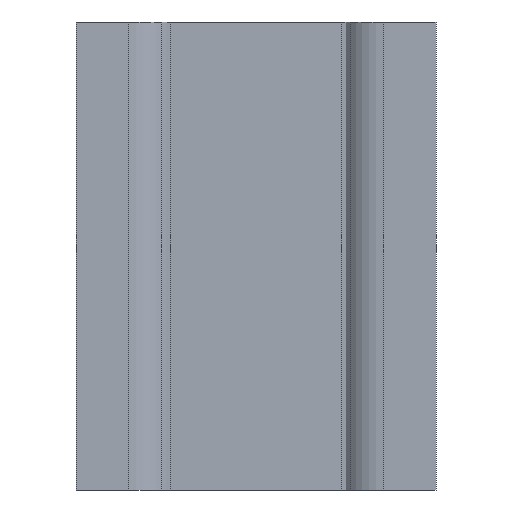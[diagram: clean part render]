
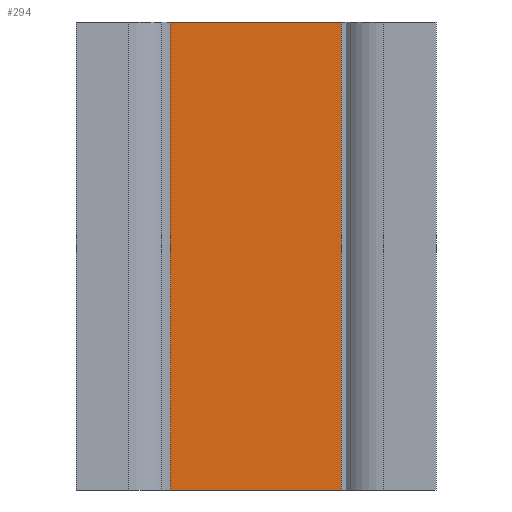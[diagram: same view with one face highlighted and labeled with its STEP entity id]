
A CAD part, front view. The second image highlights one B-rep face of the part: STEP entity #294.
In plain terms, the highlighted planar face has unit normal (0, -1, 0).
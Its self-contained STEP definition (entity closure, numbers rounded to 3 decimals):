
#1 = EDGE_CURVE ( 'NONE', #645, #343, #653, .T. ) ;
#2 = LINE ( 'NONE', #492, #76 ) ;
#3 = ORIENTED_EDGE ( 'NONE', *, *, #701, .T. ) ;
#36 = DIRECTION ( 'NONE',  ( 0., 0., 1. ) ) ;
#76 = VECTOR ( 'NONE', #681, 1000. ) ;
#84 = FACE_OUTER_BOUND ( 'NONE', #97, .T. ) ;
#97 = EDGE_LOOP ( 'NONE', ( #268, #3, #543, #812 ) ) ;
#99 = CARTESIAN_POINT ( 'NONE',  ( -2.375, 0.5, -11.425 ) ) ;
#110 = DIRECTION ( 'NONE',  ( 0., 0., 1. ) ) ;
#114 = CARTESIAN_POINT ( 'NONE',  ( -2.375, 0.5, -6.5 ) ) ;
#115 = VECTOR ( 'NONE', #36, 1000. ) ;
#124 = CARTESIAN_POINT ( 'NONE',  ( 2.375, 0.5, 6.5 ) ) ;
#156 = DIRECTION ( 'NONE',  ( 0., -1., 0. ) ) ;
#191 = CARTESIAN_POINT ( 'NONE',  ( 2.375, 0.5, -6.5 ) ) ;
#197 = EDGE_CURVE ( 'NONE', #343, #577, #494, .T. ) ;
#268 = ORIENTED_EDGE ( 'NONE', *, *, #482, .F. ) ;
#285 = PLANE ( 'NONE',  #776 ) ;
#294 = ADVANCED_FACE ( 'NONE', ( #84 ), #285, .T. ) ;
#324 = CARTESIAN_POINT ( 'NONE',  ( -2.375, 0.5, 6.5 ) ) ;
#337 = LINE ( 'NONE', #790, #409 ) ;
#343 = VERTEX_POINT ( 'NONE', #324 ) ;
#363 = DIRECTION ( 'NONE',  ( 1., 0., 0. ) ) ;
#409 = VECTOR ( 'NONE', #110, 1000. ) ;
#437 = DIRECTION ( 'NONE',  ( 0., 0., -1. ) ) ;
#482 = EDGE_CURVE ( 'NONE', #693, #645, #2, .T. ) ;
#492 = CARTESIAN_POINT ( 'NONE',  ( -2.375, 0.5, -6.5 ) ) ;
#494 = LINE ( 'NONE', #758, #759 ) ;
#543 = ORIENTED_EDGE ( 'NONE', *, *, #197, .F. ) ;
#577 = VERTEX_POINT ( 'NONE', #124 ) ;
#645 = VERTEX_POINT ( 'NONE', #114 ) ;
#653 = LINE ( 'NONE', #99, #115 ) ;
#681 = DIRECTION ( 'NONE',  ( -1., 0., 0. ) ) ;
#693 = VERTEX_POINT ( 'NONE', #191 ) ;
#701 = EDGE_CURVE ( 'NONE', #693, #577, #337, .T. ) ;
#758 = CARTESIAN_POINT ( 'NONE',  ( -2.375, 0.5, 6.5 ) ) ;
#759 = VECTOR ( 'NONE', #363, 1000. ) ;
#769 = CARTESIAN_POINT ( 'NONE',  ( -2.375, 0.5, -11.425 ) ) ;
#776 = AXIS2_PLACEMENT_3D ( 'NONE', #769, #156, #437 ) ;
#790 = CARTESIAN_POINT ( 'NONE',  ( 2.375, 0.5, -11.425 ) ) ;
#812 = ORIENTED_EDGE ( 'NONE', *, *, #1, .F. ) ;
